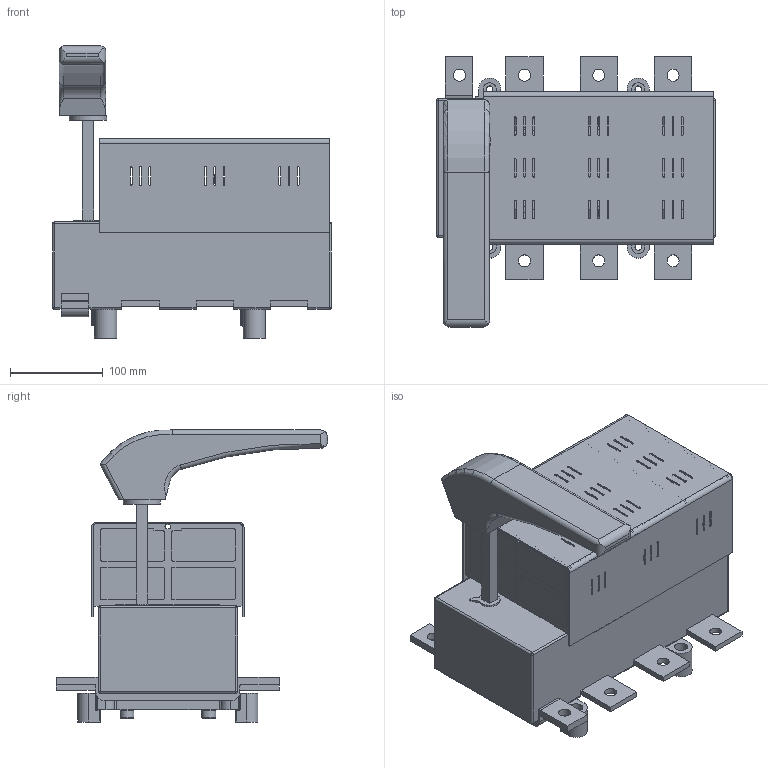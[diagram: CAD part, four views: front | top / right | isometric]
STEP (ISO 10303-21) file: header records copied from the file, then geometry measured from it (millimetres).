
FILE_DESCRIPTION(/* description */ (''),/* implementation_level */ '2;1');
FILE_NAME(/* name */ 'RAB 3 P3 N-R.stp',/* time_stamp */ '2021-08-19T14:38:37+02:00',/* author */ (''),/* organization */ (''),/* preprocessor_version */ 'ST-DEVELOPER v18.1',/* originating_system */ 'SIEMENS PLM Software NX 1965',/* authorisation */ '');
FILE_SCHEMA (('AUTOMOTIVE_DESIGN { 1 0 10303 214 3 1 1 1 }'));
Length unit declared in the file: millimetre
Products named in the file (1): RAB 3 P3 N-R_stp
Bounding box: 300 x 292 x 314.5 mm (x, y, z)
Volume: 4982860.4 mm3; surface area: 689801.6 mm2
Topology: 1 solids, 15 shells, 1598 faces, 4322 edges, 2769 vertices
Faces by surface type: plane 920, cylinder 562, torus 50, bspline 50, cone 8, sphere 8
Full cylindrical faces by diameter (mm): 3 x4, 4.8 x4, 5.2 x2, 5.6 x4, 6.5 x26, 7 x4, 10.5 x26, 13 x8, 13.5 x4, 14 x4, 15 x4, 40 x1
Entity records: 52117 total; most frequent: CARTESIAN_POINT 11747, DIRECTION 8356, ORIENTED_EDGE 8330, EDGE_CURVE 4165, LINE 2804, VECTOR 2804, AXIS2_PLACEMENT_3D 2776, VERTEX_POINT 2739
